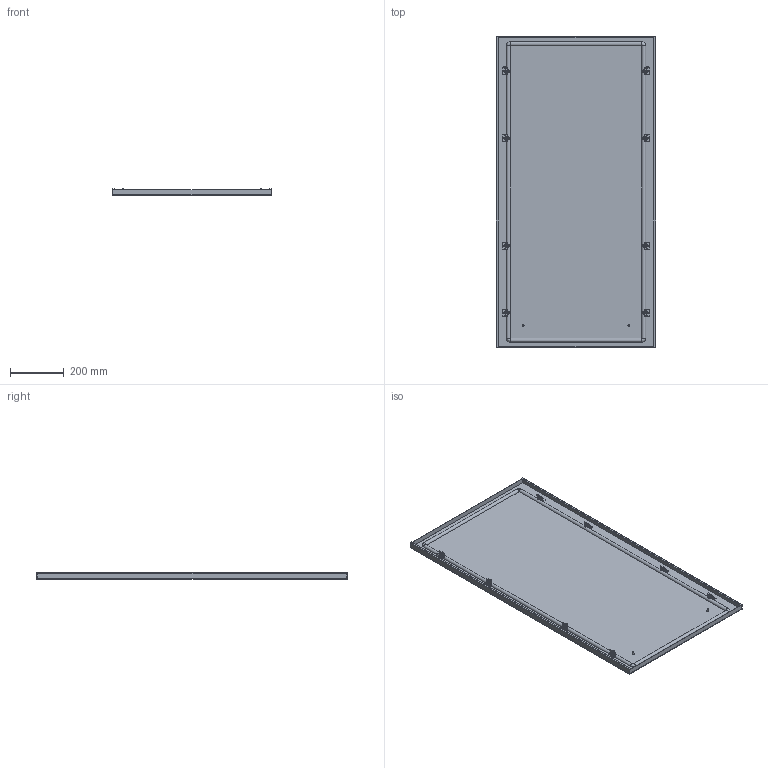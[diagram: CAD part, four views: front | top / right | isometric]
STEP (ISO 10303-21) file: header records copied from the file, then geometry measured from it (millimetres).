
FILE_DESCRIPTION(('Open CASCADE Model'),'2;1');
FILE_NAME('Open CASCADE Shape Model','2025-02-07T16:30:47',('Author'),( 'Open CASCADE'),'Open CASCADE STEP processor 7.8','Open CASCADE 7.8' ,'Unknown');
FILE_SCHEMA(('AUTOMOTIVE_DESIGN { 1 0 10303 214 1 1 1 1 }'));
Length unit declared in the file: millimetre
Products named in the file (10): Compound1; Compound2; Compound3; Solid1; Solid2; Solid3; Solid4; Solid5; Solid6; Solid7
Assembly tree (40 placements, depth 4):
  Compound1
    Compound2
      Compound3
        Solid1
        Solid2  x4
      Solid3
    Solid4  x8
    Solid5  x8
    Solid6  x8
    Solid7  x8
Bounding box: 594 x 1155 x 23.8 mm (x, y, z)
Volume: 1466926.5 mm3; surface area: 1711363 mm2
Topology: 38 solids, 38 shells, 1655 faces, 4040 edges, 2460 vertices
Faces by surface type: plane 1043, cone 308, cylinder 268, torus 25, bspline 8, revolution 3
Full cylindrical faces by diameter (mm): 5 x16, 6 x132, 7.5 x4, 8 x16, 10 x8, 11.57 x8
Entity records: 7823 total; most frequent: CARTESIAN_POINT 1513, DIRECTION 1262, ORIENTED_EDGE 1244, EDGE_CURVE 622, AXIS2_PLACEMENT_3D 425, LINE 409, VECTOR 409, VERTEX_POINT 387
